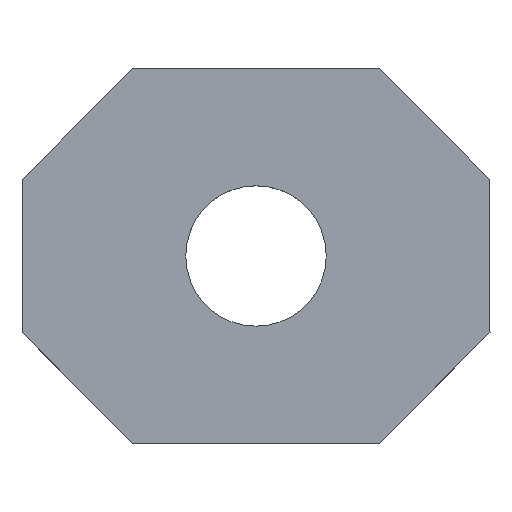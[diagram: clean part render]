
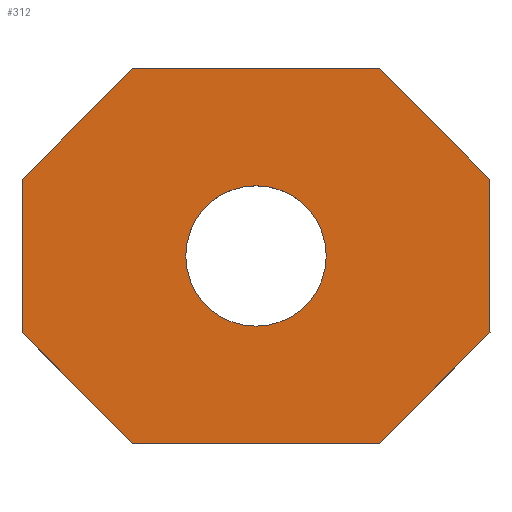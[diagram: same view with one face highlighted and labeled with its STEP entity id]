
A CAD part, top view. The second image highlights one B-rep face of the part: STEP entity #312.
In plain terms, the highlighted planar face has unit normal (0, 0, 1).
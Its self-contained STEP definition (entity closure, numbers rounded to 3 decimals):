
#55=AXIS2_PLACEMENT_3D('Circle Axis2P3D',#53,#54,$) ;
#79=AXIS2_PLACEMENT_3D('Circle Axis2P3D',#77,#78,$) ;
#270=AXIS2_PLACEMENT_3D('Plane Axis2P3D',#267,#268,#269) ;
#50=CARTESIAN_POINT('Vertex',(1111.216,-700.002,128.5)) ;
#53=CARTESIAN_POINT('Axis2P3D Location',(1115.716,-700.002,128.5)) ;
#57=CARTESIAN_POINT('Vertex',(1120.216,-700.001,128.5)) ;
#77=CARTESIAN_POINT('Axis2P3D Location',(1115.716,-700.002,128.5)) ;
#169=CARTESIAN_POINT('Line Origine',(1100.716,-700.004,128.5)) ;
#173=CARTESIAN_POINT('Vertex',(1100.715,-695.074,128.5)) ;
#175=CARTESIAN_POINT('Vertex',(1100.717,-704.934,128.5)) ;
#200=CARTESIAN_POINT('Line Origine',(1104.25,-691.538,128.5)) ;
#204=CARTESIAN_POINT('Vertex',(1107.785,-688.002,128.5)) ;
#224=CARTESIAN_POINT('Line Origine',(1115.715,-688.001,128.5)) ;
#228=CARTESIAN_POINT('Vertex',(1123.644,-688.,128.5)) ;
#248=CARTESIAN_POINT('Line Origine',(1127.18,-691.535,128.5)) ;
#252=CARTESIAN_POINT('Vertex',(1130.716,-695.071,128.5)) ;
#267=CARTESIAN_POINT('Axis2P3D Location',(2519.155,0.537,128.499)) ;
#272=CARTESIAN_POINT('Line Origine',(1104.252,-708.468,128.5)) ;
#276=CARTESIAN_POINT('Vertex',(1107.788,-712.003,128.5)) ;
#279=CARTESIAN_POINT('Line Origine',(1115.718,-712.002,128.5)) ;
#283=CARTESIAN_POINT('Vertex',(1123.648,-712.001,128.5)) ;
#286=CARTESIAN_POINT('Line Origine',(1127.182,-708.465,128.5)) ;
#290=CARTESIAN_POINT('Vertex',(1130.717,-704.93,128.5)) ;
#293=CARTESIAN_POINT('Line Origine',(1130.717,-700.,128.5)) ;
#54=DIRECTION('Axis2P3D Direction',(0.,0.,-1.)) ;
#78=DIRECTION('Axis2P3D Direction',(0.,0.,-1.)) ;
#170=DIRECTION('Vector Direction',(0.,-1.,0.)) ;
#201=DIRECTION('Vector Direction',(-0.707,-0.707,0.)) ;
#225=DIRECTION('Vector Direction',(-1.,0.,0.)) ;
#249=DIRECTION('Vector Direction',(-0.707,0.707,0.)) ;
#268=DIRECTION('Axis2P3D Direction',(0.,0.,-1.)) ;
#269=DIRECTION('Axis2P3D XDirection',(-1.,0.,0.)) ;
#273=DIRECTION('Vector Direction',(0.707,-0.707,0.)) ;
#280=DIRECTION('Vector Direction',(-1.,0.,0.)) ;
#287=DIRECTION('Vector Direction',(-0.707,-0.707,0.)) ;
#294=DIRECTION('Vector Direction',(0.,1.,0.)) ;
#171=VECTOR('Line Direction',#170,1.) ;
#202=VECTOR('Line Direction',#201,1.) ;
#226=VECTOR('Line Direction',#225,1.) ;
#250=VECTOR('Line Direction',#249,1.) ;
#274=VECTOR('Line Direction',#273,1.) ;
#281=VECTOR('Line Direction',#280,1.) ;
#288=VECTOR('Line Direction',#287,1.) ;
#295=VECTOR('Line Direction',#294,1.) ;
#299=ORIENTED_EDGE('',*,*,#206,.T.) ;
#300=ORIENTED_EDGE('',*,*,#177,.T.) ;
#301=ORIENTED_EDGE('',*,*,#278,.T.) ;
#302=ORIENTED_EDGE('',*,*,#285,.F.) ;
#303=ORIENTED_EDGE('',*,*,#292,.F.) ;
#304=ORIENTED_EDGE('',*,*,#297,.T.) ;
#305=ORIENTED_EDGE('',*,*,#254,.T.) ;
#306=ORIENTED_EDGE('',*,*,#230,.T.) ;
#309=ORIENTED_EDGE('',*,*,#81,.F.) ;
#310=ORIENTED_EDGE('',*,*,#59,.T.) ;
#311=FACE_BOUND('',#308,.T.) ;
#312=ADVANCED_FACE('\X2\51E04F554F53\X0\.41',(#307,#311),#271,.F.) ;
#56=CIRCLE('generated circle',#55,4.5) ;
#80=CIRCLE('generated circle',#79,4.5) ;
#59=EDGE_CURVE('',#58,#51,#56,.T.) ;
#81=EDGE_CURVE('',#58,#51,#80,.F.) ;
#177=EDGE_CURVE('',#174,#176,#172,.T.) ;
#206=EDGE_CURVE('',#205,#174,#203,.T.) ;
#230=EDGE_CURVE('',#229,#205,#227,.T.) ;
#254=EDGE_CURVE('',#253,#229,#251,.T.) ;
#278=EDGE_CURVE('',#176,#277,#275,.T.) ;
#285=EDGE_CURVE('',#284,#277,#282,.T.) ;
#292=EDGE_CURVE('',#291,#284,#289,.T.) ;
#297=EDGE_CURVE('',#291,#253,#296,.T.) ;
#298=EDGE_LOOP('',(#299,#300,#301,#302,#303,#304,#305,#306)) ;
#308=EDGE_LOOP('',(#309,#310)) ;
#307=FACE_OUTER_BOUND('',#298,.T.) ;
#172=LINE('Line',#169,#171) ;
#203=LINE('Line',#200,#202) ;
#227=LINE('Line',#224,#226) ;
#251=LINE('Line',#248,#250) ;
#275=LINE('Line',#272,#274) ;
#282=LINE('Line',#279,#281) ;
#289=LINE('Line',#286,#288) ;
#296=LINE('Line',#293,#295) ;
#271=PLANE('Plane',#270) ;
#51=VERTEX_POINT('',#50) ;
#58=VERTEX_POINT('',#57) ;
#174=VERTEX_POINT('',#173) ;
#176=VERTEX_POINT('',#175) ;
#205=VERTEX_POINT('',#204) ;
#229=VERTEX_POINT('',#228) ;
#253=VERTEX_POINT('',#252) ;
#277=VERTEX_POINT('',#276) ;
#284=VERTEX_POINT('',#283) ;
#291=VERTEX_POINT('',#290) ;
